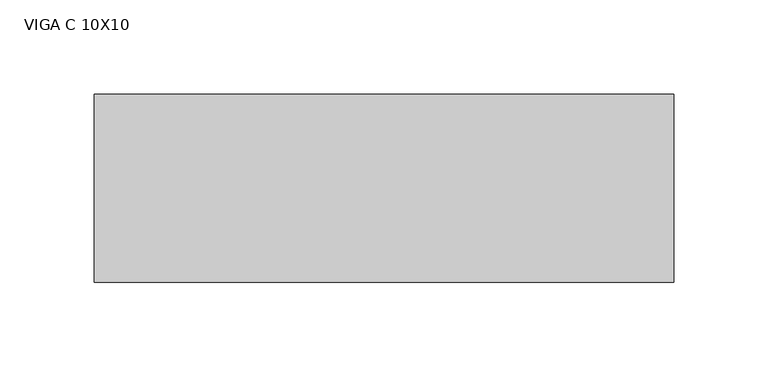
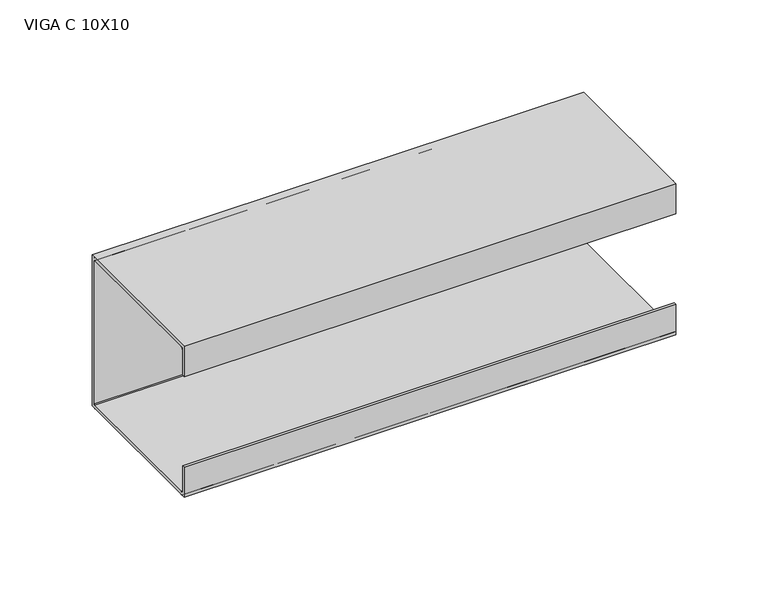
"""IFC4 building model written with IfcOpenShell, lengths in millimetres: beam geometry, VIGA PERFIL C AÇO : VIGA C 10X10."""

from ifc_helpers import new_model, si_unit, point, frame, frame_2d, origin, place, context, project, spatial, polyline, circle_curve, trimmed, segment, composite_curve, outline, extrude, source, transform, mapped, element, save


def viga_c_10x10_969106f8(model_context):
    return source(origin(), model_context, "Body", "SweptSolid", [
        extrude(outline(polyline([(9.2, -50.0), (-90.8, -50.0), (-90.8, -30.0), (-88.9, -30.0), (-88.9, -48.1), (7.3, -48.1), (7.3, 48.1), (-88.9, 48.1), (-88.9, 30.0), (-90.8, 30.0), (-90.8, 50.0), (9.2, 50.0), (9.2, -50.0)])), frame((-139.5, 0.0, 0.0), z_axis=(1.0, 0.0, 0.0), x_axis=(0.0, 1.0, 0.0)), (0.0, 0.0, 1.0), 308.0),
        extrude(outline(composite_curve([segment(trimmed(circle_curve(frame_2d((5.4, -46.2)), 3.8), [point((9.2, -46.2))], [point((5.4, -50.0))], False, "CARTESIAN"), True, "CONTINUOUS"), segment(polyline([(5.4, -50.0), (-87.0, -50.0)]), True, "CONTINUOUS"), segment(trimmed(circle_curve(frame_2d((-87.0, -46.2)), 3.8), [point((-87.0, -50.0))], [point((-90.8, -46.2))], False, "CARTESIAN"), True, "CONTINUOUS"), segment(polyline([(-90.8, -46.2), (-90.8, -30.0), (-88.9, -30.0), (-88.9, -46.2)]), True, "CONTINUOUS"), segment(trimmed(circle_curve(frame_2d((-87.0, -46.2)), 1.9), [point((-88.9, -46.2))], [point((-87.0, -48.1))], True, "CARTESIAN"), True, "CONTINUOUS"), segment(polyline([(-87.0, -48.1), (5.4, -48.1)]), True, "CONTINUOUS"), segment(trimmed(circle_curve(frame_2d((5.4, -46.2)), 1.9), [point((5.4, -48.1))], [point((7.3, -46.2))], True, "CARTESIAN"), True, "CONTINUOUS"), segment(polyline([(7.3, -46.2), (7.3, 46.2)]), True, "CONTINUOUS"), segment(trimmed(circle_curve(frame_2d((5.4, 46.2)), 1.9), [point((7.3, 46.2))], [point((5.4, 48.1))], True, "CARTESIAN"), True, "CONTINUOUS"), segment(polyline([(5.4, 48.1), (-87.0, 48.1)]), True, "CONTINUOUS"), segment(trimmed(circle_curve(frame_2d((-87.0, 46.2)), 1.9), [point((-87.0, 48.1))], [point((-88.9, 46.2))], True, "CARTESIAN"), True, "CONTINUOUS"), segment(polyline([(-88.9, 46.2), (-88.9, 30.0), (-90.8, 30.0), (-90.8, 46.2)]), True, "CONTINUOUS"), segment(trimmed(circle_curve(frame_2d((-87.0, 46.2)), 3.8), [point((-90.8, 46.2))], [point((-87.0, 50.0))], False, "CARTESIAN"), True, "CONTINUOUS"), segment(polyline([(-87.0, 50.0), (5.4, 50.0)]), True, "CONTINUOUS"), segment(trimmed(circle_curve(frame_2d((5.4, 46.2)), 3.8), [point((5.4, 50.0))], [point((9.2, 46.2))], False, "CARTESIAN"), True, "CONTINUOUS"), segment(polyline([(9.2, 46.2), (9.2, -46.2)]), True, "CONTINUOUS")], self_intersect=False)), frame((-139.5, 0.0, 0.0), z_axis=(1.0, 0.0, 0.0), x_axis=(0.0, 1.0, 0.0)), (0.0, 0.0, 1.0), 308.0),
    ])


if __name__ == "__main__":
    model = new_model("IFC4")
    model_context = context("Model", 3, world=origin())
    ifc_project = project(units=[si_unit("LENGTHUNIT", "METRE", prefix="MILLI")], contexts=[model_context])
    site = spatial("IfcSite", under=ifc_project)
    building = spatial("IfcBuilding", under=site)
    placement = place(None, origin())
    viga_c_10x10_shape = viga_c_10x10_969106f8(model_context)
    element("IfcBeam", 1, ObjectType="VIGA PERFIL C AÇO : VIGA C 10X10", at=placement, inside=building, context=model_context, shape_type="MappedRepresentation", body=[
        mapped(viga_c_10x10_shape, transform((0.0, 0.0, 0.0), x_axis=(1.0, 0.0, 0.0), y_axis=(0.0, 1.0, 0.0), z_axis=(0.0, 0.0, 1.0))),
    ])
    save(model, "model.ifc")
